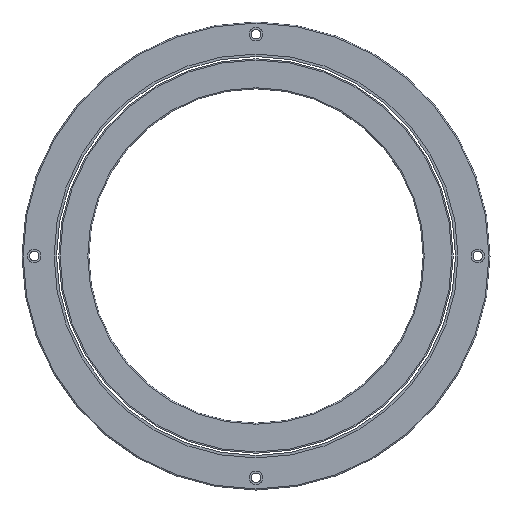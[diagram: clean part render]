
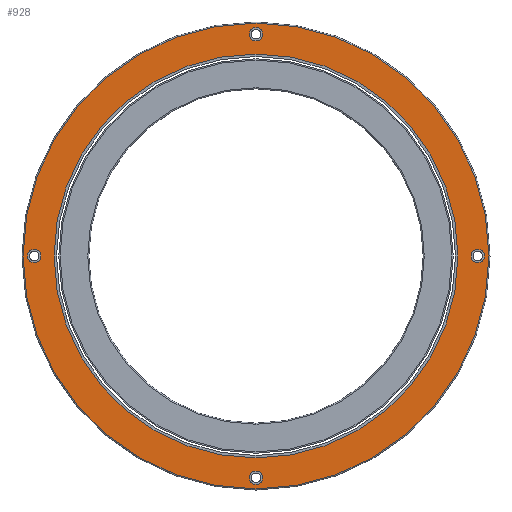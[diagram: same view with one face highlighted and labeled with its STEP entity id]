
A CAD part, front view. The second image highlights one B-rep face of the part: STEP entity #928.
In plain terms, the highlighted planar face has unit normal (0, -1, 0).
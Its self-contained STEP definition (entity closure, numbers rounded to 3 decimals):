
#43=CARTESIAN_POINT('',(0.,0.,0.));
#44=DIRECTION('',(0.,-1.,0.));
#45=DIRECTION('',(-1.,0.,0.));
#46=AXIS2_PLACEMENT_3D('',#43,#44,#45);
#48=CARTESIAN_POINT('',(0.,0.,0.));
#49=DIRECTION('',(0.,1.,0.));
#50=DIRECTION('',(-1.,0.,0.));
#51=AXIS2_PLACEMENT_3D('',#48,#49,#50);
#53=CARTESIAN_POINT('',(-99.5,0.,0.));
#54=DIRECTION('',(0.,1.,0.));
#55=DIRECTION('',(1.,0.,0.));
#56=AXIS2_PLACEMENT_3D('',#53,#54,#55);
#58=CARTESIAN_POINT('',(-99.5,0.,0.));
#59=DIRECTION('',(0.,1.,0.));
#60=DIRECTION('',(-1.,0.,0.));
#61=AXIS2_PLACEMENT_3D('',#58,#59,#60);
#63=CARTESIAN_POINT('',(0.,0.,99.5));
#64=DIRECTION('',(0.,1.,0.));
#65=DIRECTION('',(0.,0.,-1.));
#66=AXIS2_PLACEMENT_3D('',#63,#64,#65);
#68=CARTESIAN_POINT('',(0.,0.,99.5));
#69=DIRECTION('',(0.,1.,0.));
#70=DIRECTION('',(0.,0.,1.));
#71=AXIS2_PLACEMENT_3D('',#68,#69,#70);
#73=CARTESIAN_POINT('',(99.5,0.,0.));
#74=DIRECTION('',(0.,1.,0.));
#75=DIRECTION('',(-1.,0.,0.));
#76=AXIS2_PLACEMENT_3D('',#73,#74,#75);
#78=CARTESIAN_POINT('',(99.5,0.,0.));
#79=DIRECTION('',(0.,1.,0.));
#80=DIRECTION('',(1.,0.,0.));
#81=AXIS2_PLACEMENT_3D('',#78,#79,#80);
#83=CARTESIAN_POINT('',(0.,0.,-99.5));
#84=DIRECTION('',(0.,1.,0.));
#85=DIRECTION('',(0.,0.,1.));
#86=AXIS2_PLACEMENT_3D('',#83,#84,#85);
#88=CARTESIAN_POINT('',(0.,0.,-99.5));
#89=DIRECTION('',(0.,1.,0.));
#90=DIRECTION('',(0.,0.,-1.));
#91=AXIS2_PLACEMENT_3D('',#88,#89,#90);
#93=CARTESIAN_POINT('',(0.,0.,0.));
#94=DIRECTION('',(0.,1.,0.));
#95=DIRECTION('',(-1.,0.,0.));
#96=AXIS2_PLACEMENT_3D('',#93,#94,#95);
#98=CARTESIAN_POINT('',(0.,0.,0.));
#99=DIRECTION('',(0.,1.,0.));
#100=DIRECTION('',(1.,0.,0.));
#101=AXIS2_PLACEMENT_3D('',#98,#99,#100);
#751=CARTESIAN_POINT('',(-96.5,0.,0.));
#752=VERTEX_POINT('',#751);
#753=CARTESIAN_POINT('',(-102.5,0.,0.));
#754=VERTEX_POINT('',#753);
#763=CARTESIAN_POINT('',(0.,0.,96.5));
#764=VERTEX_POINT('',#763);
#765=CARTESIAN_POINT('',(0.,0.,102.5));
#766=VERTEX_POINT('',#765);
#775=CARTESIAN_POINT('',(96.5,0.,0.));
#776=VERTEX_POINT('',#775);
#777=CARTESIAN_POINT('',(102.5,0.,0.));
#778=VERTEX_POINT('',#777);
#787=CARTESIAN_POINT('',(0.,0.,-96.5));
#788=VERTEX_POINT('',#787);
#789=CARTESIAN_POINT('',(0.,0.,-102.5));
#790=VERTEX_POINT('',#789);
#808=CARTESIAN_POINT('',(-90.6,0.,0.));
#810=VERTEX_POINT('',#808);
#812=CARTESIAN_POINT('',(90.6,0.,0.));
#814=VERTEX_POINT('',#812);
#827=CARTESIAN_POINT('',(-104.5,0.,0.));
#828=CARTESIAN_POINT('',(104.5,0.,0.));
#829=VERTEX_POINT('',#827);
#830=VERTEX_POINT('',#828);
#889=CARTESIAN_POINT('',(0.,0.,0.));
#890=DIRECTION('',(0.,1.,0.));
#891=DIRECTION('',(1.,0.,0.));
#892=AXIS2_PLACEMENT_3D('',#889,#890,#891);
#893=PLANE('',#892);
#895=ORIENTED_EDGE('',*,*,#894,.T.);
#897=ORIENTED_EDGE('',*,*,#896,.T.);
#898=EDGE_LOOP('',(#895,#897));
#899=FACE_OUTER_BOUND('',#898,.F.);
#900=ORIENTED_EDGE('',*,*,#868,.F.);
#901=ORIENTED_EDGE('',*,*,#884,.F.);
#902=EDGE_LOOP('',(#900,#901));
#903=FACE_BOUND('',#902,.F.);
#905=ORIENTED_EDGE('',*,*,#904,.F.);
#907=ORIENTED_EDGE('',*,*,#906,.F.);
#908=EDGE_LOOP('',(#905,#907));
#909=FACE_BOUND('',#908,.F.);
#911=ORIENTED_EDGE('',*,*,#910,.F.);
#913=ORIENTED_EDGE('',*,*,#912,.F.);
#914=EDGE_LOOP('',(#911,#913));
#915=FACE_BOUND('',#914,.F.);
#917=ORIENTED_EDGE('',*,*,#916,.F.);
#919=ORIENTED_EDGE('',*,*,#918,.F.);
#920=EDGE_LOOP('',(#917,#919));
#921=FACE_BOUND('',#920,.F.);
#923=ORIENTED_EDGE('',*,*,#922,.T.);
#925=ORIENTED_EDGE('',*,*,#924,.F.);
#926=EDGE_LOOP('',(#923,#925));
#927=FACE_BOUND('',#926,.F.);
#47=CIRCLE('',#46,90.6);
#52=CIRCLE('',#51,90.6);
#57=CIRCLE('',#56,3.);
#62=CIRCLE('',#61,3.);
#67=CIRCLE('',#66,3.);
#72=CIRCLE('',#71,3.);
#77=CIRCLE('',#76,3.);
#82=CIRCLE('',#81,3.);
#87=CIRCLE('',#86,3.);
#92=CIRCLE('',#91,3.);
#97=CIRCLE('',#96,104.5);
#102=CIRCLE('',#101,104.5);
#868=EDGE_CURVE('',#752,#754,#57,.T.);
#884=EDGE_CURVE('',#754,#752,#62,.T.);
#894=EDGE_CURVE('',#829,#830,#97,.T.);
#896=EDGE_CURVE('',#830,#829,#102,.T.);
#904=EDGE_CURVE('',#764,#766,#67,.T.);
#906=EDGE_CURVE('',#766,#764,#72,.T.);
#910=EDGE_CURVE('',#776,#778,#77,.T.);
#912=EDGE_CURVE('',#778,#776,#82,.T.);
#916=EDGE_CURVE('',#788,#790,#87,.T.);
#918=EDGE_CURVE('',#790,#788,#92,.T.);
#922=EDGE_CURVE('',#810,#814,#47,.T.);
#924=EDGE_CURVE('',#810,#814,#52,.T.);
#928=ADVANCED_FACE('',(#899,#903,#909,#915,#921,#927),#893,.F.);
